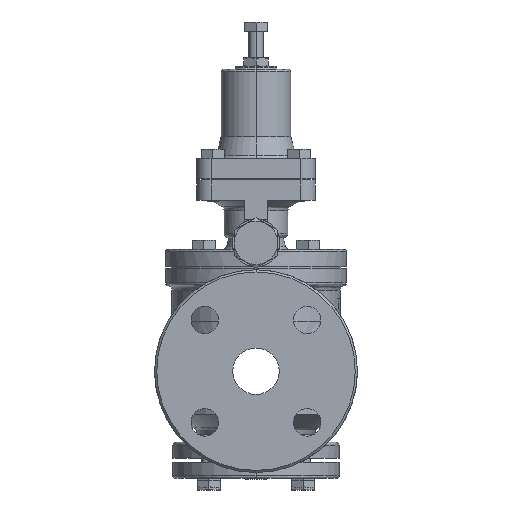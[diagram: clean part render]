
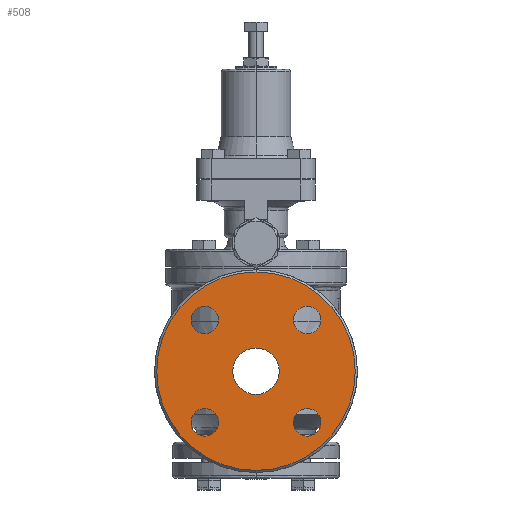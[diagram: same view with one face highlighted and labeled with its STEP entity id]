
A CAD part, left-side view. The second image highlights one B-rep face of the part: STEP entity #508.
In plain terms, the highlighted planar face has unit normal (-1, 0, 0).
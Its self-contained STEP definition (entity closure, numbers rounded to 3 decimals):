
#508=ADVANCED_FACE('',(#2272,#2273,#2274,#2275,#2276,#2277),#2271,.T.);
#2271=PLANE('',#5937);
#2272=FACE_OUTER_BOUND('',#5938,.T.);
#2273=FACE_BOUND('',#5939,.T.);
#2274=FACE_BOUND('',#5940,.T.);
#2275=FACE_BOUND('',#5941,.T.);
#2276=FACE_BOUND('',#5942,.T.);
#2277=FACE_BOUND('',#5943,.T.);
#5934=CARTESIAN_POINT('',(-227.605,-128.645,-331.499));
#5935=DIRECTION('',(-1.,0.,0.));
#5936=DIRECTION('',(0.,0.,1.));
#5937=AXIS2_PLACEMENT_3D('',#5934,#5935,#5936);
#5938=EDGE_LOOP('',(#8857,#8858));
#5939=EDGE_LOOP('',(#8859,#8860));
#5940=EDGE_LOOP('',(#8861,#8862));
#5941=EDGE_LOOP('',(#8863,#8864));
#5942=EDGE_LOOP('',(#8865,#8866));
#5943=EDGE_LOOP('',(#8867,#8868));
#8857=ORIENTED_EDGE('',*,*,#10609,.T.);
#8858=ORIENTED_EDGE('',*,*,#10610,.T.);
#8859=ORIENTED_EDGE('',*,*,#10611,.T.);
#8860=ORIENTED_EDGE('',*,*,#10612,.T.);
#8861=ORIENTED_EDGE('',*,*,#10613,.T.);
#8862=ORIENTED_EDGE('',*,*,#10614,.T.);
#8863=ORIENTED_EDGE('',*,*,#10615,.T.);
#8864=ORIENTED_EDGE('',*,*,#10616,.T.);
#8865=ORIENTED_EDGE('',*,*,#10617,.F.);
#8866=ORIENTED_EDGE('',*,*,#10618,.F.);
#8867=ORIENTED_EDGE('',*,*,#10619,.T.);
#8868=ORIENTED_EDGE('',*,*,#10620,.T.);
#10609=EDGE_CURVE('',#14907,#14908,#14909,.T.);
#10610=EDGE_CURVE('',#14908,#14907,#14915,.T.);
#10611=EDGE_CURVE('',#14921,#14922,#14923,.T.);
#10612=EDGE_CURVE('',#14922,#14921,#14929,.T.);
#10613=EDGE_CURVE('',#14935,#14936,#14937,.T.);
#10614=EDGE_CURVE('',#14936,#14935,#14943,.T.);
#10615=EDGE_CURVE('',#14949,#14950,#14951,.T.);
#10616=EDGE_CURVE('',#14950,#14949,#14957,.T.);
#10617=EDGE_CURVE('',#14963,#14964,#14965,.T.);
#10618=EDGE_CURVE('',#14964,#14963,#14971,.T.);
#10619=EDGE_CURVE('',#14977,#14978,#14979,.T.);
#10620=EDGE_CURVE('',#14978,#14977,#14985,.T.);
#14907=VERTEX_POINT('',#21419);
#14908=VERTEX_POINT('',#21420);
#14909=CIRCLE('',#21424,68.5);
#14915=CIRCLE('',#21428,68.5);
#14921=VERTEX_POINT('',#21429);
#14922=VERTEX_POINT('',#21430);
#14923=CIRCLE('',#21434,9.5);
#14929=CIRCLE('',#21438,9.5);
#14935=VERTEX_POINT('',#21439);
#14936=VERTEX_POINT('',#21440);
#14937=CIRCLE('',#21444,9.5);
#14943=CIRCLE('',#21448,9.5);
#14949=VERTEX_POINT('',#21449);
#14950=VERTEX_POINT('',#21450);
#14951=CIRCLE('',#21454,9.5);
#14957=CIRCLE('',#21458,9.5);
#14963=VERTEX_POINT('',#21459);
#14964=VERTEX_POINT('',#21460);
#14965=CIRCLE('',#21464,16.);
#14971=CIRCLE('',#21468,16.);
#14977=VERTEX_POINT('',#21469);
#14978=VERTEX_POINT('',#21470);
#14979=CIRCLE('',#21474,9.5);
#14985=CIRCLE('',#21478,9.5);
#21419=CARTESIAN_POINT('',(-227.605,0.,-115.999));
#21420=CARTESIAN_POINT('',(-227.605,0.,-252.999));
#21421=CARTESIAN_POINT('',(-227.605,0.,-184.499));
#21422=DIRECTION('',(-1.,0.,0.));
#21423=DIRECTION('',(0.,0.,1.));
#21424=AXIS2_PLACEMENT_3D('',#21421,#21422,#21423);
#21425=CARTESIAN_POINT('',(-227.605,0.,-184.499));
#21426=DIRECTION('',(-1.,0.,0.));
#21427=DIRECTION('',(0.,0.,1.));
#21428=AXIS2_PLACEMENT_3D('',#21425,#21426,#21427);
#21429=CARTESIAN_POINT('',(-227.605,-35.355,-139.643));
#21430=CARTESIAN_POINT('',(-227.605,-35.355,-158.643));
#21431=CARTESIAN_POINT('',(-227.605,-35.355,-149.143));
#21432=DIRECTION('',(1.,0.,0.));
#21433=DIRECTION('',(0.,0.,1.));
#21434=AXIS2_PLACEMENT_3D('',#21431,#21432,#21433);
#21435=CARTESIAN_POINT('',(-227.605,-35.355,-149.143));
#21436=DIRECTION('',(1.,0.,0.));
#21437=DIRECTION('',(0.,0.,1.));
#21438=AXIS2_PLACEMENT_3D('',#21435,#21436,#21437);
#21439=CARTESIAN_POINT('',(-227.605,-35.355,-210.354));
#21440=CARTESIAN_POINT('',(-227.605,-35.355,-229.354));
#21441=CARTESIAN_POINT('',(-227.605,-35.355,-219.854));
#21442=DIRECTION('',(1.,0.,0.));
#21443=DIRECTION('',(0.,0.,1.));
#21444=AXIS2_PLACEMENT_3D('',#21441,#21442,#21443);
#21445=CARTESIAN_POINT('',(-227.605,-35.355,-219.854));
#21446=DIRECTION('',(1.,0.,0.));
#21447=DIRECTION('',(0.,0.,1.));
#21448=AXIS2_PLACEMENT_3D('',#21445,#21446,#21447);
#21449=CARTESIAN_POINT('',(-227.605,35.355,-210.354));
#21450=CARTESIAN_POINT('',(-227.605,35.355,-229.354));
#21451=CARTESIAN_POINT('',(-227.605,35.355,-219.854));
#21452=DIRECTION('',(1.,0.,0.));
#21453=DIRECTION('',(0.,0.,1.));
#21454=AXIS2_PLACEMENT_3D('',#21451,#21452,#21453);
#21455=CARTESIAN_POINT('',(-227.605,35.355,-219.854));
#21456=DIRECTION('',(1.,0.,0.));
#21457=DIRECTION('',(0.,0.,1.));
#21458=AXIS2_PLACEMENT_3D('',#21455,#21456,#21457);
#21459=CARTESIAN_POINT('',(-227.605,0.,-200.499));
#21460=CARTESIAN_POINT('',(-227.605,0.,-168.499));
#21461=CARTESIAN_POINT('',(-227.605,0.,-184.499));
#21462=DIRECTION('',(-1.,0.,0.));
#21463=DIRECTION('',(0.,0.,1.));
#21464=AXIS2_PLACEMENT_3D('',#21461,#21462,#21463);
#21465=CARTESIAN_POINT('',(-227.605,0.,-184.499));
#21466=DIRECTION('',(-1.,0.,0.));
#21467=DIRECTION('',(0.,0.,1.));
#21468=AXIS2_PLACEMENT_3D('',#21465,#21466,#21467);
#21469=CARTESIAN_POINT('',(-227.605,35.355,-139.643));
#21470=CARTESIAN_POINT('',(-227.605,35.355,-158.643));
#21471=CARTESIAN_POINT('',(-227.605,35.355,-149.143));
#21472=DIRECTION('',(1.,0.,0.));
#21473=DIRECTION('',(0.,0.,1.));
#21474=AXIS2_PLACEMENT_3D('',#21471,#21472,#21473);
#21475=CARTESIAN_POINT('',(-227.605,35.355,-149.143));
#21476=DIRECTION('',(1.,0.,0.));
#21477=DIRECTION('',(0.,0.,1.));
#21478=AXIS2_PLACEMENT_3D('',#21475,#21476,#21477);
